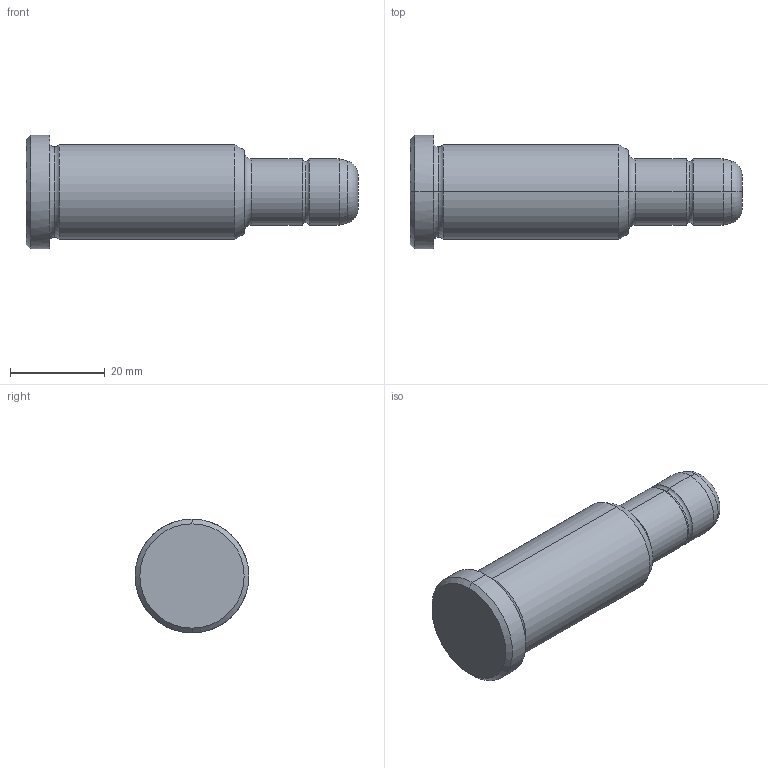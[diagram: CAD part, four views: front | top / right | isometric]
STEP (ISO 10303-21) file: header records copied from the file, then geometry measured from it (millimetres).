
FILE_DESCRIPTION(('CATIA V5 STEP Exchange'),'2;1');
FILE_NAME('C:\Users\Utente\Desktop\IO LAVORO\3D X SITO CF\X SITO\PLASTICA\351\351-14X46X70.stp','2021-08-18T10:43:44+00:00',('none'),('none'),'CATIA Version 5 Release 20 GA (IN-10)','CATIA V5 STEP AP203','none');
FILE_SCHEMA(('CONFIG_CONTROL_DESIGN'));
Length unit declared in the file: millimetre
Products named in the file (1): 351-14X46X70
Bounding box: 70 x 24 x 24 mm (x, y, z)
Volume: 18560.6 mm3; surface area: 4735 mm2
Topology: 1 solids, 1 shells, 30 faces, 86 edges, 60 vertices
Faces by surface type: torus 12, cylinder 8, cone 6, plane 4
Entity records: 1112 total; most frequent: CARTESIAN_POINT 289, ORIENTED_EDGE 172, DIRECTION 138, AXIS2_PLACEMENT_3D 95, EDGE_CURVE 86, CIRCLE 64, VERTEX_POINT 60, EDGE_LOOP 32
